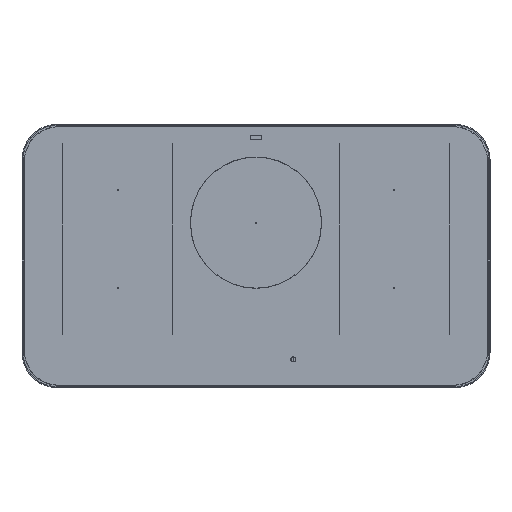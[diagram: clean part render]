
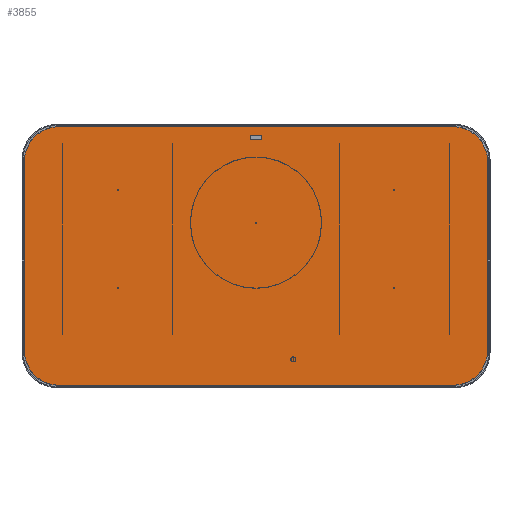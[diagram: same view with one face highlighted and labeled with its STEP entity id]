
A CAD part, top view. The second image highlights one B-rep face of the part: STEP entity #3855.
In plain terms, the highlighted planar face has unit normal (0, 0, 1).
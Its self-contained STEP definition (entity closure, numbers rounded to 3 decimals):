
#1714=PLANE('',#11768);
#2541=LINE('',#16987,#3267);
#2542=LINE('',#16991,#3268);
#2543=LINE('',#16995,#3269);
#2544=LINE('',#16999,#3270);
#3267=VECTOR('',#14075,1.);
#3268=VECTOR('',#14078,1.);
#3269=VECTOR('',#14081,1.);
#3270=VECTOR('',#14084,1.);
#3855=ADVANCED_FACE('',(#4536),#1714,.T.);
#4536=FACE_OUTER_BOUND('',#5131,.T.);
#5131=EDGE_LOOP('',(#7068,#7069,#7070,#7071,#7072,#7073,#7074,#7075));
#7068=ORIENTED_EDGE('',*,*,#9924,.T.);
#7069=ORIENTED_EDGE('',*,*,#9925,.T.);
#7070=ORIENTED_EDGE('',*,*,#9926,.T.);
#7071=ORIENTED_EDGE('',*,*,#9927,.T.);
#7072=ORIENTED_EDGE('',*,*,#9928,.T.);
#7073=ORIENTED_EDGE('',*,*,#9929,.T.);
#7074=ORIENTED_EDGE('',*,*,#9930,.T.);
#7075=ORIENTED_EDGE('',*,*,#9931,.T.);
#8746=VERTEX_POINT('',#16985);
#8747=VERTEX_POINT('',#16986);
#8748=VERTEX_POINT('',#16988);
#8749=VERTEX_POINT('',#16990);
#8750=VERTEX_POINT('',#16992);
#8751=VERTEX_POINT('',#16994);
#8752=VERTEX_POINT('',#16996);
#8753=VERTEX_POINT('',#16998);
#9924=EDGE_CURVE('',#8746,#8747,#10863,.T.);
#9925=EDGE_CURVE('',#8747,#8748,#2541,.T.);
#9926=EDGE_CURVE('',#8748,#8749,#10864,.T.);
#9927=EDGE_CURVE('',#8749,#8750,#2542,.T.);
#9928=EDGE_CURVE('',#8750,#8751,#10865,.T.);
#9929=EDGE_CURVE('',#8751,#8752,#2543,.T.);
#9930=EDGE_CURVE('',#8752,#8753,#10866,.T.);
#9931=EDGE_CURVE('',#8753,#8746,#2544,.T.);
#10863=CIRCLE('',#11764,68.7);
#10864=CIRCLE('',#11765,68.7);
#10865=CIRCLE('',#11766,68.7);
#10866=CIRCLE('',#11767,68.7);
#11764=AXIS2_PLACEMENT_3D('',#16984,#14073,#14074);
#11765=AXIS2_PLACEMENT_3D('',#16989,#14076,#14077);
#11766=AXIS2_PLACEMENT_3D('',#16993,#14079,#14080);
#11767=AXIS2_PLACEMENT_3D('',#16997,#14082,#14083);
#11768=AXIS2_PLACEMENT_3D('',#17000,#14085,#14086);
#14073=DIRECTION('',(0.,0.,1.));
#14074=DIRECTION('',(1.,0.,0.));
#14075=DIRECTION('',(0.,-1.,0.));
#14076=DIRECTION('',(0.,0.,1.));
#14077=DIRECTION('',(1.,0.,0.));
#14078=DIRECTION('',(1.,0.,0.));
#14079=DIRECTION('',(0.,0.,1.));
#14080=DIRECTION('',(1.,0.,0.));
#14081=DIRECTION('',(0.,1.,0.));
#14082=DIRECTION('',(0.,0.,1.));
#14083=DIRECTION('',(1.,0.,0.));
#14084=DIRECTION('',(-1.,0.,0.));
#14085=DIRECTION('',(0.,0.,1.));
#14086=DIRECTION('',(1.,0.,0.));
#16984=CARTESIAN_POINT('',(-390.,187.5,19.9));
#16985=CARTESIAN_POINT('',(-390.,256.2,19.9));
#16986=CARTESIAN_POINT('',(-458.7,187.5,19.9));
#16987=CARTESIAN_POINT('',(-458.7,-187.5,19.9));
#16988=CARTESIAN_POINT('',(-458.7,-187.5,19.9));
#16989=CARTESIAN_POINT('',(-390.,-187.5,19.9));
#16990=CARTESIAN_POINT('',(-390.,-256.2,19.9));
#16991=CARTESIAN_POINT('',(390.,-256.2,19.9));
#16992=CARTESIAN_POINT('',(390.,-256.2,19.9));
#16993=CARTESIAN_POINT('',(390.,-187.5,19.9));
#16994=CARTESIAN_POINT('',(458.7,-187.5,19.9));
#16995=CARTESIAN_POINT('',(458.7,187.5,19.9));
#16996=CARTESIAN_POINT('',(458.7,187.5,19.9));
#16997=CARTESIAN_POINT('',(390.,187.5,19.9));
#16998=CARTESIAN_POINT('',(390.,256.2,19.9));
#16999=CARTESIAN_POINT('',(-390.,256.2,19.9));
#17000=CARTESIAN_POINT('',(-390.,-187.5,19.9));
